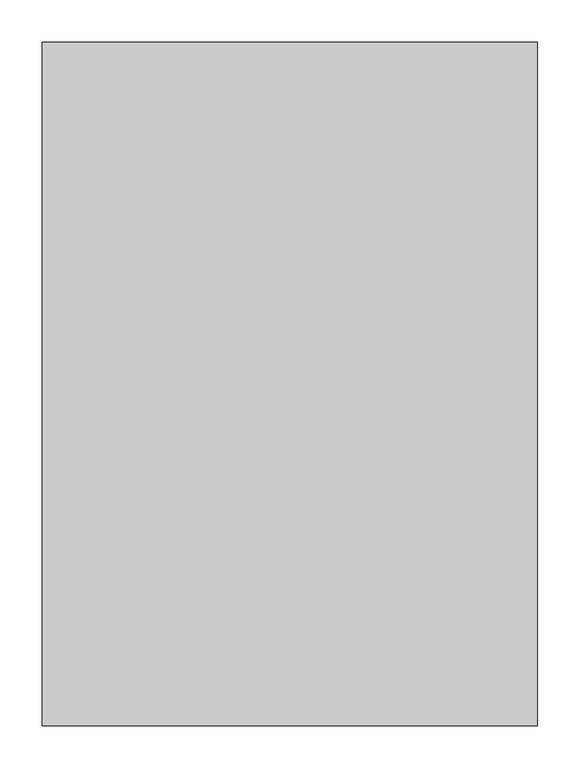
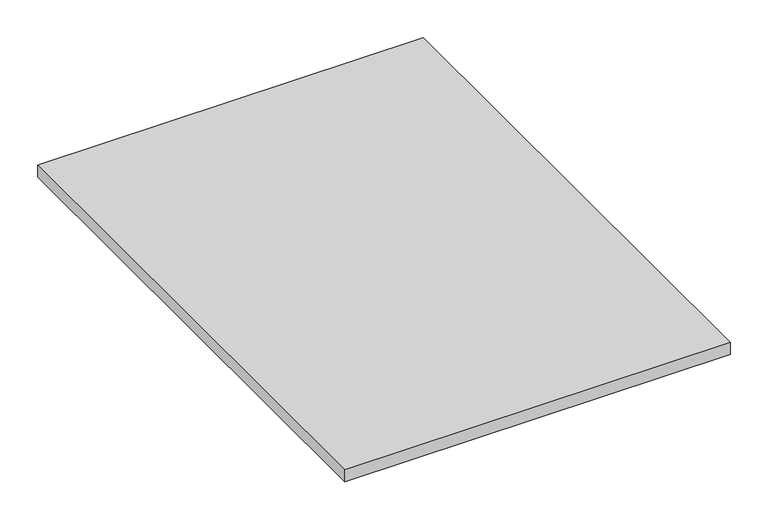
"""IFC4 building model written with IfcOpenShell, lengths in millimetres: proxy geometry, FOUNDATION^STANDARD CREDENZA_WEBSITE DETAIL-LEFT CTR DOOR."""

from ifc_helpers import new_model, si_unit, frame, origin, place, context, project, spatial, polyline, outline, extrude, source, transform, mapped, element, save


def generic_models_4b309084(model_context):
    return source(origin(), model_context, "Body", "SweptSolid", [
        extrude(outline(polyline([(630.4359375, 38.1), (630.4359375, 848.51875), (1218.009375, 848.51875), (1218.009375, 38.1), (630.4359375, 38.1)])), frame((0.0, 0.0, 615.95), z_axis=(0.0, 0.0, 1.0), x_axis=(1.0, 0.0, 0.0)), (0.0, 0.0, 1.0), 19.05),
    ])


if __name__ == "__main__":
    model = new_model("IFC4")
    model_context = context("Model", 3, world=origin())
    ifc_project = project(units=[si_unit("LENGTHUNIT", "METRE", prefix="MILLI")], contexts=[model_context])
    site = spatial("IfcSite", under=ifc_project)
    building = spatial("IfcBuilding", under=site)
    placement = place(None, origin())
    generic_models_shape = generic_models_4b309084(model_context)
    element("IfcBuildingElementProxy", 1, Name="FOUNDATION^STANDARD CREDENZA_WEBSITE DETAIL-LEFT CTR DOOR", ObjectType="FOUNDATION^STANDARD CREDENZA_WEBSITE DETAIL-LEFT CTR DOOR", at=placement, inside=building, context=model_context, shape_type="MappedRepresentation", body=[
        mapped(generic_models_shape, transform((0.0, 0.0, 0.0), x_axis=(1.0, 0.0, 0.0), y_axis=(0.0, 1.0, 0.0), z_axis=(0.0, 0.0, 1.0))),
    ])
    save(model, "model.ifc")
